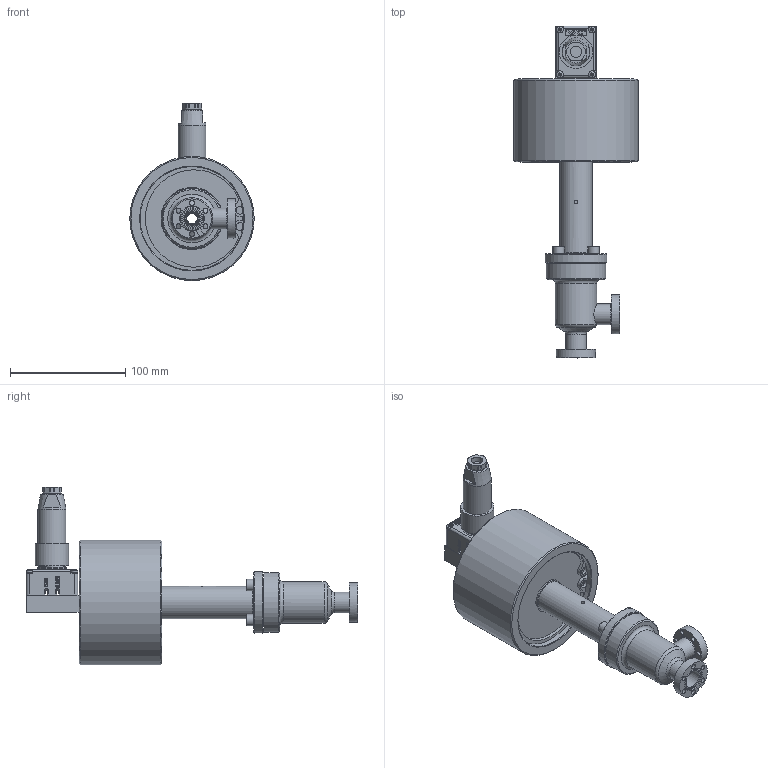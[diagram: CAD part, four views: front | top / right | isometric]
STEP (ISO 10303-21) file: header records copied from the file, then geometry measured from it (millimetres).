
FILE_DESCRIPTION(/* description */ (''),/* implementation_level */ '2;1');
FILE_NAME(/* name */ '1359775009_203.stp',/* time_stamp */ '2010-03-29T13:46:31+02:00',/* author */ (''),/* organization */ (''),/* preprocessor_version */ 'ST-DEVELOPER v11',/* originating_system */ 'UGS - NX 5.0',/* authorisation */ '');
FILE_SCHEMA (('CONFIG_CONTROL_DESIGN'));
Length unit declared in the file: millimetre
Products named in the file (15): 69672-01; n-6024-531; 80420-01; n-8504-002; 211199; N-6203-092.1; N-5019-788.1; 217479.1; 313142.1; 223347_1.2; 223345_1.4; 223343_1.2; 260102.1; 223626.3; 405672
Assembly tree (22 placements, depth 2):
  405672
    223626.3
    260102.1  x2
    223343_1.2
    223345_1.4
    223347_1.2
    313142.1
    217479.1
    N-5019-788.1  x4
    N-6203-092.1
    211199  x2
    n-8504-002
    80420-01
    n-6024-531  x4
    69672-01
Bounding box: 108 x 288.19 x 154 mm (x, y, z)
Volume: 578995.4 mm3; surface area: 165788.2 mm2
Topology: 30 solids, 30 shells, 694 faces, 1694 edges, 1152 vertices
Faces by surface type: plane 390, cylinder 216, cone 51, bspline 20, torus 11, sphere 6
Full cylindrical faces by diameter (mm): 1.95 x4, 2.25 x4, 2.5 x4, 3 x16, 3.4 x4, 3.6 x2, 4.3 x12, 4.96 x4, 5 x9, 6 x19, 6.4 x4, 6.5 x2, 7 x2, 8.57 x1, 9.05 x1, 9.73 x1, 10 x5, 10.4 x2, 11.65 x1, 12.011 x1, 12.925 x1, 13.3 x1, 13.85 x1, 14.25 x1, 14.35 x1, 14.9 x1, 15 x1, 16 x3, 16.05 x1, 17.55 x1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
Entity records: 20383 total; most frequent: CARTESIAN_POINT 6145, DIRECTION 2490, ORIENTED_EDGE 2304, EDGE_CURVE 1152, AXIS2_PLACEMENT_3D 996, VERTEX_POINT 908, EDGE_LOOP 877, FACE_BOUND 616
